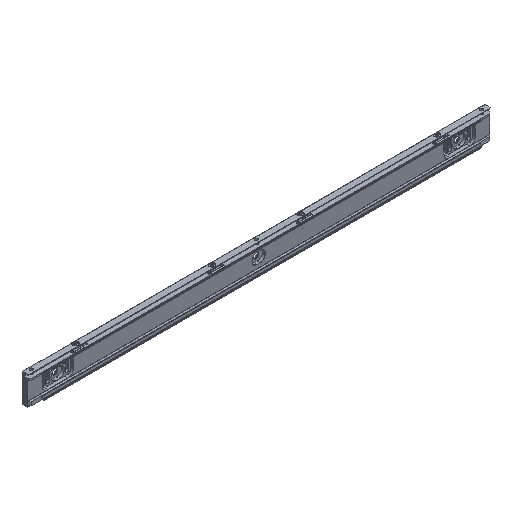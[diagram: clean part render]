
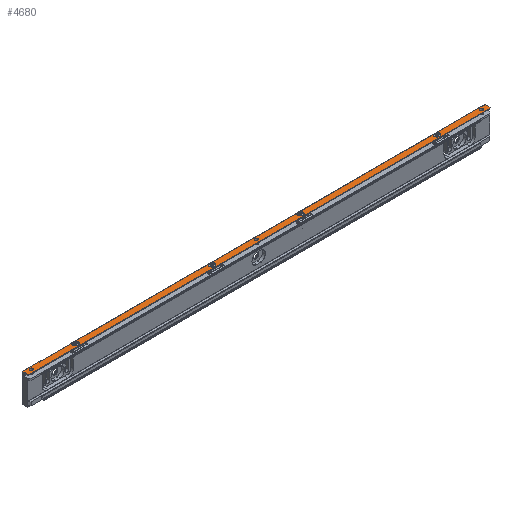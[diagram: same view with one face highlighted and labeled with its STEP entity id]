
A CAD part, isometric view. The second image highlights one B-rep face of the part: STEP entity #4680.
In plain terms, the highlighted planar face has unit normal (0, 0, 1).
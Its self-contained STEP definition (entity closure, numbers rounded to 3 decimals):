
#260=CARTESIAN_POINT('',(-17.266,8.917,
83.483));
#270=VERTEX_POINT('',#260);
#1080=CARTESIAN_POINT('',(-12.734,8.917,
83.483));
#1090=VERTEX_POINT('',#1080);
#1120=CARTESIAN_POINT('',(-15.,6.25,
83.483));
#1130=DIRECTION('',(0.,0.,-1.));
#1140=DIRECTION('',(-1.,0.,0.));
#1150=AXIS2_PLACEMENT_3D('',#1120,#1130,#1140);
#1160=CIRCLE('',#1150,3.5);
#1170=EDGE_CURVE('',#1090,#270,#1160,.T.);
#1470=CARTESIAN_POINT('',(92.734,8.917,
83.483));
#1480=VERTEX_POINT('',#1470);
#2290=CARTESIAN_POINT('',(97.266,8.917,
83.483));
#2300=VERTEX_POINT('',#2290);
#2330=CARTESIAN_POINT('',(95.,6.25,
83.483));
#2340=DIRECTION('',(0.,0.,-1.));
#2350=DIRECTION('',(-1.,0.,0.));
#2360=AXIS2_PLACEMENT_3D('',#2330,#2340,#2350);
#2370=CIRCLE('',#2360,3.5);
#2380=EDGE_CURVE('',#2300,#1480,#2370,.T.);
#3200=CARTESIAN_POINT('',(-5.,10.,
83.483));
#3210=DIRECTION('',(0.,0.,1.));
#3220=DIRECTION('',(0.,1.,0.));
#3230=AXIS2_PLACEMENT_3D('',#3200,#3210,#3220);
#3240=PLANE('',#3230);
#3250=CARTESIAN_POINT('',(40.,6.,
83.483));
#3260=DIRECTION('',(0.,0.,1.));
#3270=DIRECTION('',(0.,1.,0.));
#3280=AXIS2_PLACEMENT_3D('',#3250,#3260,#3270);
#3290=CIRCLE('',#3280,1.9);
#3300=CARTESIAN_POINT('',(41.9,6.,
83.483));
#3310=VERTEX_POINT('',#3300);
#3320=CARTESIAN_POINT('',(38.1,6.,
83.483));
#3330=VERTEX_POINT('',#3320);
#3340=EDGE_CURVE('',#3310,#3330,#3290,.T.);
#3350=ORIENTED_EDGE('',*,*,#3340,.F.);
#3360=EDGE_CURVE('',#3330,#3310,#3290,.T.);
#3370=ORIENTED_EDGE('',*,*,#3360,.F.);
#3380=EDGE_LOOP('',(#3370,#3350));
#3390=FACE_BOUND('',#3380,.T.);
#3400=CARTESIAN_POINT('',(265.,6.25,
83.483));
#3410=DIRECTION('',(0.,0.,-1.));
#3420=DIRECTION('',(-1.,0.,0.));
#3430=AXIS2_PLACEMENT_3D('',#3400,#3410,#3420);
#3440=CIRCLE('',#3430,3.5);
#3450=CARTESIAN_POINT('',(267.266,8.917,
83.483));
#3460=VERTEX_POINT('',#3450);
#3470=CARTESIAN_POINT('',(262.734,8.917,
83.483));
#3480=VERTEX_POINT('',#3470);
#3490=EDGE_CURVE('',#3460,#3480,#3440,.T.);
#3500=ORIENTED_EDGE('',*,*,#3490,.T.);
#3510=CARTESIAN_POINT('',(345.,8.917,83.483));
#3520=DIRECTION('',(-1.,0.,0.));
#3530=VECTOR('',#3520,1.);
#3540=LINE('',#3510,#3530);
#3550=CARTESIAN_POINT('',(327.5,8.917,83.483));
#3560=VERTEX_POINT('',#3550);
#3570=EDGE_CURVE('',#3560,#3460,#3540,.T.);
#3580=ORIENTED_EDGE('',*,*,#3570,.T.);
#3590=CARTESIAN_POINT('',(327.5,8.463,83.483));
#3600=DIRECTION('',(0.,1.,0.));
#3610=VECTOR('',#3600,1.);
#3620=LINE('',#3590,#3610);
#3630=CARTESIAN_POINT('',(327.5,2.75,83.483));
#3640=VERTEX_POINT('',#3630);
#3650=EDGE_CURVE('',#3640,#3560,#3620,.T.);
#3660=ORIENTED_EDGE('',*,*,#3650,.T.);
#3670=CARTESIAN_POINT('',(333.212,8.462,
83.483));
#3680=DIRECTION('',(0.707,0.707,
0.));
#3690=VECTOR('',#3680,1.);
#3700=LINE('',#3670,#3690);
#3710=CARTESIAN_POINT('',(326.2,1.45,
83.483));
#3720=VERTEX_POINT('',#3710);
#3730=EDGE_CURVE('',#3720,#3640,#3700,.T.);
#3740=ORIENTED_EDGE('',*,*,#3730,.T.);
#3750=CARTESIAN_POINT('',(-80.,1.45,
83.483));
#3760=DIRECTION('',(1.,0.,0.));
#3770=VECTOR('',#3760,1.);
#3780=LINE('',#3750,#3770);
#3790=CARTESIAN_POINT('',(-246.2,1.45,
83.483));
#3800=VERTEX_POINT('',#3790);
#3810=EDGE_CURVE('',#3800,#3720,#3780,.T.);
#3820=ORIENTED_EDGE('',*,*,#3810,.T.);
#3830=CARTESIAN_POINT('',(-253.212,8.462,
83.483));
#3840=DIRECTION('',(-0.707,0.707,
0.));
#3850=VECTOR('',#3840,1.);
#3860=LINE('',#3830,#3850);
#3870=CARTESIAN_POINT('',(-247.5,2.75,
83.483));
#3880=VERTEX_POINT('',#3870);
#3890=EDGE_CURVE('',#3800,#3880,#3860,.T.);
#3900=ORIENTED_EDGE('',*,*,#3890,.F.);
#3910=CARTESIAN_POINT('',(-247.5,8.463,
83.483));
#3920=DIRECTION('',(0.,1.,0.));
#3930=VECTOR('',#3920,1.);
#3940=LINE('',#3910,#3930);
#3950=CARTESIAN_POINT('',(-247.5,8.917,
83.483));
#3960=VERTEX_POINT('',#3950);
#3970=EDGE_CURVE('',#3880,#3960,#3940,.T.);
#3980=ORIENTED_EDGE('',*,*,#3970,.F.);
#3990=CARTESIAN_POINT('',(-115.,8.917,83.483));
#4000=DIRECTION('',(-1.,0.,0.));
#4010=VECTOR('',#4000,1.);
#4020=LINE('',#3990,#4010);
#4030=CARTESIAN_POINT('',(-187.266,8.917,
83.483));
#4040=VERTEX_POINT('',#4030);
#4050=EDGE_CURVE('',#4040,#3960,#4020,.T.);
#4060=ORIENTED_EDGE('',*,*,#4050,.T.);
#4070=CARTESIAN_POINT('',(-185.,6.25,
83.483));
#4080=DIRECTION('',(0.,0.,-1.));
#4090=DIRECTION('',(-1.,0.,0.));
#4100=AXIS2_PLACEMENT_3D('',#4070,#4080,#4090);
#4110=CIRCLE('',#4100,3.5);
#4120=CARTESIAN_POINT('',(-182.734,8.917,
83.483));
#4130=VERTEX_POINT('',#4120);
#4140=EDGE_CURVE('',#4130,#4040,#4110,.T.);
#4150=ORIENTED_EDGE('',*,*,#4140,.T.);
#4160=CARTESIAN_POINT('',(5.,8.917,
83.483));
#4170=DIRECTION('',(-1.,0.,0.));
#4180=VECTOR('',#4170,1.);
#4190=LINE('',#4160,#4180);
#4200=EDGE_CURVE('',#270,#4130,#4190,.T.);
#4210=ORIENTED_EDGE('',*,*,#4200,.T.);
#4220=ORIENTED_EDGE('',*,*,#1170,.T.);
#4230=CARTESIAN_POINT('',(65.,8.917,
83.483));
#4240=DIRECTION('',(-1.,0.,0.));
#4250=VECTOR('',#4240,1.);
#4260=LINE('',#4230,#4250);
#4270=EDGE_CURVE('',#1480,#1090,#4260,.T.);
#4280=ORIENTED_EDGE('',*,*,#4270,.T.);
#4290=ORIENTED_EDGE('',*,*,#2380,.T.);
#4300=CARTESIAN_POINT('',(175.,8.917,83.483));
#4310=DIRECTION('',(-1.,0.,0.));
#4320=VECTOR('',#4310,1.);
#4330=LINE('',#4300,#4320);
#4340=EDGE_CURVE('',#3480,#2300,#4330,.T.);
#4350=ORIENTED_EDGE('',*,*,#4340,.T.);
#4360=EDGE_LOOP('',(#4350,#4290,#4280,#4220,#4210,#4150,#4060,#3980,
#3900,#3820,#3740,#3660,#3580,#3500));
#4370=FACE_OUTER_BOUND('',#4360,.T.);
#4380=CARTESIAN_POINT('',(-240.,6.,
83.483));
#4390=DIRECTION('',(0.,0.,1.));
#4400=DIRECTION('',(0.,1.,0.));
#4410=AXIS2_PLACEMENT_3D('',#4380,#4390,#4400);
#4420=CIRCLE('',#4410,1.9);
#4430=CARTESIAN_POINT('',(-238.1,6.,
83.483));
#4440=VERTEX_POINT('',#4430);
#4450=CARTESIAN_POINT('',(-241.9,6.,
83.483));
#4460=VERTEX_POINT('',#4450);
#4470=EDGE_CURVE('',#4440,#4460,#4420,.T.);
#4480=ORIENTED_EDGE('',*,*,#4470,.F.);
#4490=EDGE_CURVE('',#4460,#4440,#4420,.T.);
#4500=ORIENTED_EDGE('',*,*,#4490,.F.);
#4510=EDGE_LOOP('',(#4500,#4480));
#4520=FACE_BOUND('',#4510,.T.);
#4530=CARTESIAN_POINT('',(320.,6.,83.483));
#4540=DIRECTION('',(0.,0.,1.));
#4550=DIRECTION('',(0.,1.,0.));
#4560=AXIS2_PLACEMENT_3D('',#4530,#4540,#4550);
#4570=CIRCLE('',#4560,1.9);
#4580=CARTESIAN_POINT('',(321.9,6.,83.483));
#4590=VERTEX_POINT('',#4580);
#4600=CARTESIAN_POINT('',(318.1,6.,83.483));
#4610=VERTEX_POINT('',#4600);
#4620=EDGE_CURVE('',#4590,#4610,#4570,.T.);
#4630=ORIENTED_EDGE('',*,*,#4620,.F.);
#4640=EDGE_CURVE('',#4610,#4590,#4570,.T.);
#4650=ORIENTED_EDGE('',*,*,#4640,.F.);
#4660=EDGE_LOOP('',(#4650,#4630));
#4670=FACE_BOUND('',#4660,.T.);
#4680=ADVANCED_FACE('',(#3390,#4370,#4520,#4670),#3240,.T.);
